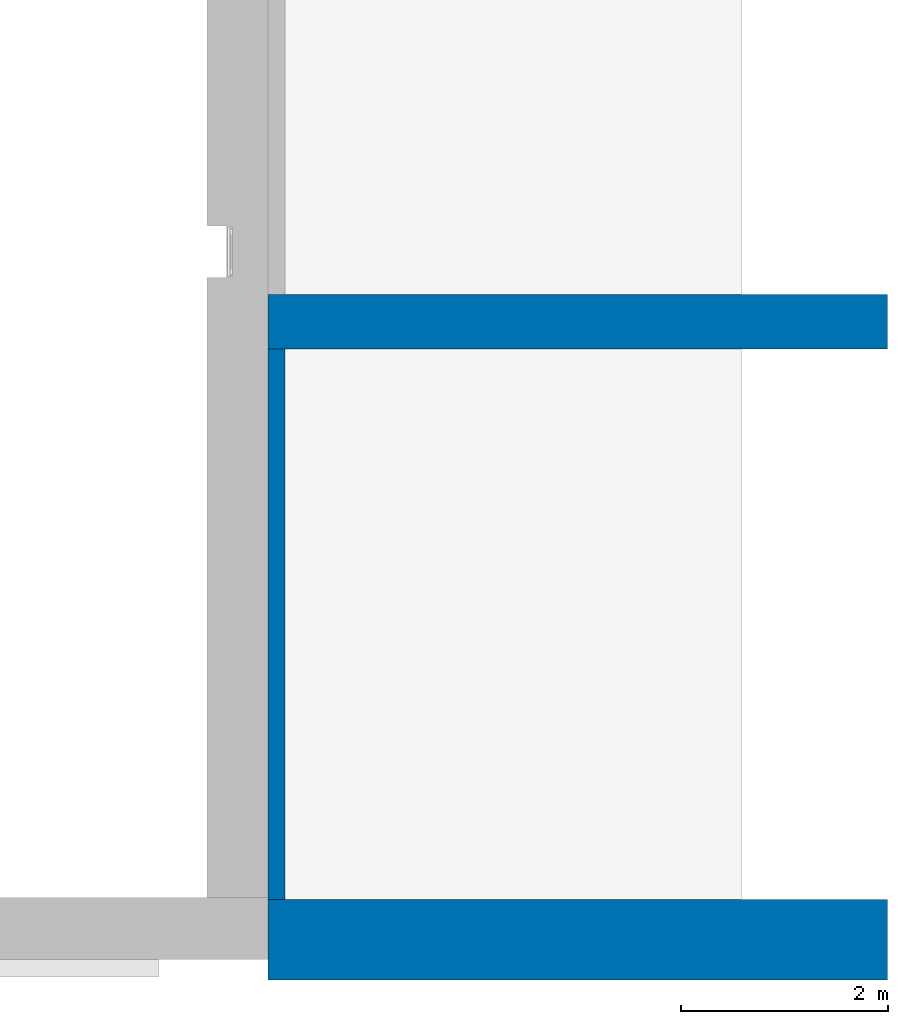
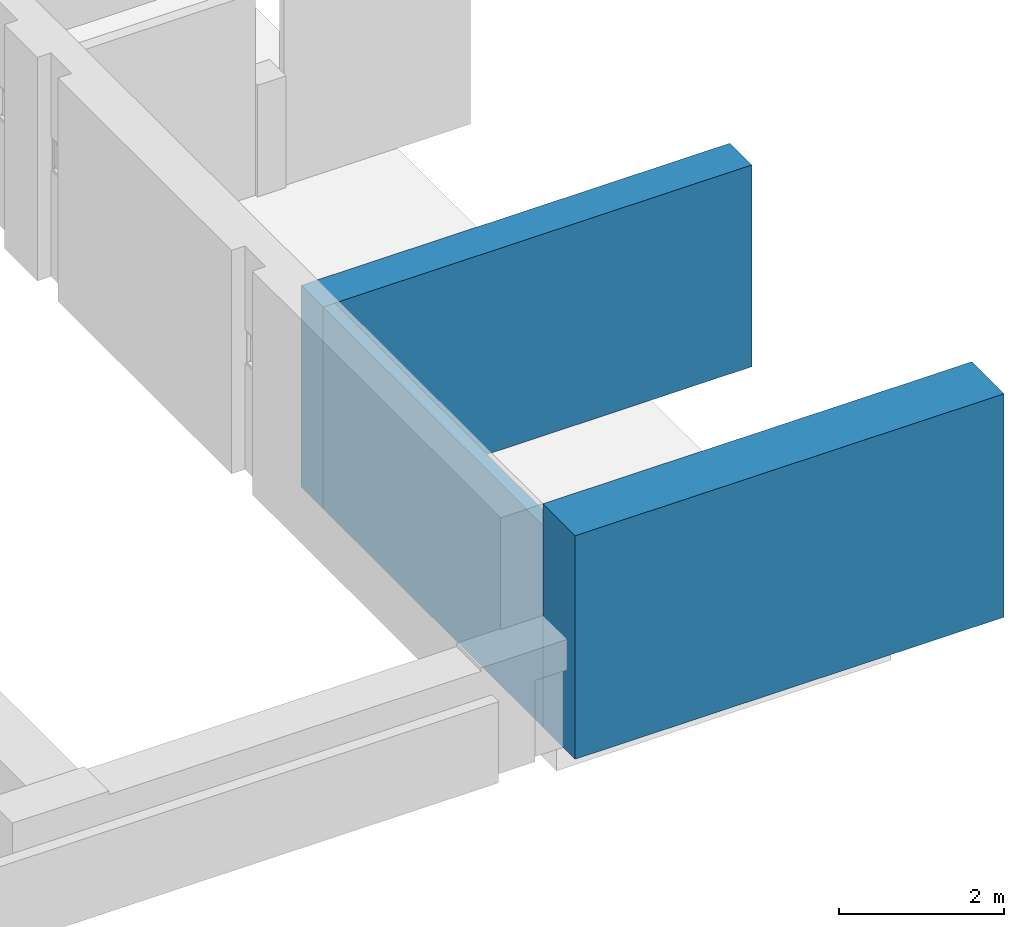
# One storey, part 2 of 11: 3 walls, 18 openings.
"""IFC2X3 building model written with IfcOpenShell, lengths in millimetres."""

import ifcopenshell
import ifcopenshell.guid

model = None  # the IFC model being written
_history = None  # IfcOwnerHistory: only IFC2X3 demands one
_inside = {}  # id of a spatial element -> (the spatial element, [elements in it])
_under = {}  # id of a project, library or spatial element -> (it, [spatial elements below it])
_declared = {}  # id of a project -> (the project, [libraries it declares])
_typed = {}  # id of a type object -> (the type object, [elements of that type])
_made_of = {}  # id of a material, layer set ... -> (it, [elements and type objects made of it])


def new_model(schema):
    """Start an empty IFC model of exactly this schema.

    Asked for "IFC4X3", IfcOpenShell would pick the latest addendum, in which some entities
    have other attributes; the version numbers below select the first issue.
    IFC2X3 requires an IfcOwnerHistory on every rooted entity: one is made here for all.
    """
    global model, _history
    if schema == "IFC4X3":
        model = ifcopenshell.file(schema_version=(4, 3, 0, 0))
    else:
        model = ifcopenshell.file(schema=schema)
    _inside.clear()
    _under.clear()
    _declared.clear()
    _typed.clear()
    _made_of.clear()
    _history = None
    if model.schema == "IFC2X3":
        org = make("IfcOrganization", Name="unknown")
        user = make(
            "IfcPersonAndOrganization",
            ThePerson=make("IfcPerson", FamilyName="unknown"),
            TheOrganization=org,
        )
        app = make(
            "IfcApplication",
            ApplicationDeveloper=org,
            Version="unknown",
            ApplicationFullName="unknown",
            ApplicationIdentifier="unknown",
        )
        _history = make(
            "IfcOwnerHistory",
            OwningUser=user,
            OwningApplication=app,
            ChangeAction="ADDED",
            CreationDate=0,
        )
    return model


def make(cls, **values):
    """One entity of the class cls with the attributes given. An attribute that is None is left unset."""
    return model.create_entity(
        cls, **{name: value for name, value in values.items() if value is not None}
    )


def entity(cls, *values):
    """Any entity or typed value of the class cls, its attributes in the order of the schema. None: left unset."""
    e = model.create_entity(cls)
    for i, value in enumerate(values):
        if value is not None:
            e[i] = value
    return e


def rooted(cls, **values):
    """An entity with a GlobalId (a new one), such as an element, a storey or a relation."""
    return make(cls, GlobalId=ifcopenshell.guid.new(), OwnerHistory=_history, **values)


def si_unit(unit_type, name, prefix=None):
    """IfcSIUnit, for example si_unit("LENGTHUNIT", "METRE", prefix="MILLI")."""
    return make("IfcSIUnit", UnitType=unit_type, Prefix=prefix, Name=name)


def converted_unit(unit_type, name, factor, base, dimensions=None, offset=None):
    """IfcConversionBasedUnit, such as the inch: factor (a typed value) times the base unit."""
    return make(
        "IfcConversionBasedUnit"
        if offset is None
        else "IfcConversionBasedUnitWithOffset",
        ConversionOffset=offset,
        Dimensions=None
        if dimensions is None
        else entity("IfcDimensionalExponents", *dimensions),
        UnitType=unit_type,
        Name=name,
        ConversionFactor=make(
            "IfcMeasureWithUnit", ValueComponent=factor, UnitComponent=base
        ),
    )


def derived_unit(unit_type, elements):
    """IfcDerivedUnit: a product of units, each with its exponent."""
    return make(
        "IfcDerivedUnit",
        Elements=[
            make("IfcDerivedUnitElement", Unit=unit, Exponent=power)
            for unit, power in elements
        ],
        UnitType=unit_type,
    )


def assignment(units):
    """IfcUnitAssignment: the units of a project."""
    return None if units is None else make("IfcUnitAssignment", Units=units)


def point(xyz):
    """IfcCartesianPoint."""
    return None if xyz is None else make("IfcCartesianPoint", Coordinates=xyz)


def direction(xyz):
    """IfcDirection."""
    return None if xyz is None else make("IfcDirection", DirectionRatios=xyz)


def frame(location, z_axis=None, x_axis=None):
    """IfcAxis2Placement3D, a coordinate frame: its origin and axes. An axis left out is left unset."""
    return make(
        "IfcAxis2Placement3D",
        Location=point(location),
        Axis=direction(z_axis),
        RefDirection=direction(x_axis),
    )


def frame_2d(location, x_axis=None):
    """IfcAxis2Placement2D, a coordinate frame in the plane: its origin and x axis."""
    return make(
        "IfcAxis2Placement2D", Location=point(location), RefDirection=direction(x_axis)
    )


def origin():
    """The frame at (0, 0, 0) with its axes left unset."""
    return frame((0.0, 0.0, 0.0))


def origin_2d_with_axis():
    """The frame at (0, 0) in the plane with the x axis (1, 0) written out."""
    return frame_2d((0.0, 0.0), x_axis=(1.0, 0.0))


def place(relative_to, where):
    """IfcLocalPlacement: puts the frame where relative to a parent placement (None: the world)."""
    return make(
        "IfcLocalPlacement", PlacementRelTo=relative_to, RelativePlacement=where
    )


def context(
    kind, dimensions, precision=None, world=None, true_north=None, identifier=None
):
    """IfcGeometricRepresentationContext, for example the 3D "Model" context."""
    return make(
        "IfcGeometricRepresentationContext",
        ContextIdentifier=identifier,
        ContextType=kind,
        CoordinateSpaceDimension=dimensions,
        Precision=precision,
        WorldCoordinateSystem=world,
        TrueNorth=true_north,
    )


def subcontext(parent, identifier, kind, view, scale=None):
    """IfcGeometricRepresentationSubContext, for example "Body" below "Model"."""
    return make(
        "IfcGeometricRepresentationSubContext",
        ContextIdentifier=identifier,
        ContextType=kind,
        ParentContext=parent,
        TargetScale=scale,
        TargetView=view,
    )


def project(units=None, contexts=None):
    """IfcProject with its units and contexts."""
    return rooted(
        "IfcProject",
        Name="project",
        RepresentationContexts=contexts,
        UnitsInContext=assignment(units),
    )


def spatial(cls, under=None, at=None, **own):
    """A site, building, storey or space (cls), placed at a placement, below another one or the project."""
    s = rooted(cls, ObjectPlacement=at, **own)
    if under is not None:
        _under.setdefault(under.id(), (under, []))[1].append(s)
    return s


def polyline(points):
    """IfcPolyline through the points."""
    return make("IfcPolyline", Points=[point(p) for p in points])


def circle_curve(where, radius):
    """IfcCircle in the frame where."""
    return make("IfcCircle", Position=where, Radius=radius)


def parameter(value):
    """IfcParameterValue: where a trimmed curve begins or ends, as a parameter of its basis curve."""
    return model.create_entity("IfcParameterValue", value)


def trimmed(basis, trim1, trim2, sense, master):
    """IfcTrimmedCurve: the piece of a basis curve between two trims."""
    return make(
        "IfcTrimmedCurve",
        BasisCurve=basis,
        Trim1=trim1,
        Trim2=trim2,
        SenseAgreement=sense,
        MasterRepresentation=master,
    )


def segment(curve, same_sense, transition):
    """IfcCompositeCurveSegment."""
    return make(
        "IfcCompositeCurveSegment",
        Transition=transition,
        SameSense=same_sense,
        ParentCurve=curve,
    )


def composite_curve(segments, self_intersect=None):
    """IfcCompositeCurve: segments joined end to end."""
    return make("IfcCompositeCurve", Segments=segments, SelfIntersect=self_intersect)


def profile(cls, at=None, kind="AREA", **sizes):
    """A parametric profile (cls). Its sizes go by their IFC names, for example OverallWidth=200.0."""
    return make(cls, ProfileType=kind, Position=at, **sizes)


def rectangle(**sizes):
    """IfcRectangleProfileDef."""
    return profile("IfcRectangleProfileDef", **sizes)


def outline(outer, holes=None, kind="AREA"):
    """IfcArbitraryClosedProfileDef: a profile drawn as a closed curve; with holes, ...WithVoids."""
    if holes is None:
        return make("IfcArbitraryClosedProfileDef", ProfileType=kind, OuterCurve=outer)
    return make(
        "IfcArbitraryProfileDefWithVoids",
        ProfileType=kind,
        OuterCurve=outer,
        InnerCurves=holes,
    )


def extrude(swept, where, along, depth):
    """IfcExtrudedAreaSolid: the profile swept, set in the frame where, extruded along a direction by depth."""
    return make(
        "IfcExtrudedAreaSolid",
        SweptArea=swept,
        Position=where,
        ExtrudedDirection=direction(along),
        Depth=depth,
    )


def clip(a, b, op="DIFFERENCE"):
    """IfcBooleanClippingResult: the solid a cut by the half space b."""
    return make(
        "IfcBooleanClippingResult", Operator=op, FirstOperand=a, SecondOperand=b
    )


def bounded_halfspace(plane, agree, where, boundary):
    """IfcPolygonalBoundedHalfSpace: a half space limited to a polygon's prism."""
    return make(
        "IfcPolygonalBoundedHalfSpace",
        BaseSurface=make("IfcPlane", Position=plane),
        AgreementFlag=agree,
        Position=where,
        PolygonalBoundary=boundary,
    )


def faces_of(points, faces, orient=None, outer=None):
    """IfcFace entities. A face is a list of loops; a loop is a list of indices into points, from 0.

    orient and outer hold one flag for each loop. By default every Orientation is true, the
    first loop of a face is its IfcFaceOuterBound and the others are IfcFaceBound.
    """
    made = []
    for i, loops in enumerate(faces):
        bounds = []
        for j, loop in enumerate(loops):
            is_outer = j == 0 if outer is None else outer[i][j]
            bounds.append(
                make(
                    "IfcFaceOuterBound" if is_outer else "IfcFaceBound",
                    Bound=make("IfcPolyLoop", Polygon=[points[k] for k in loop]),
                    Orientation=True if orient is None else orient[i][j],
                )
            )
        made.append(make("IfcFace", Bounds=bounds))
    return made


def faceted_brep(points, faces, orient=None, outer=None, voids=None):
    """IfcFacetedBrep: a solid bounded by flat faces; with voids (closed shells), ...WithVoids."""
    shared = [point(p) for p in points]
    hull = make("IfcClosedShell", CfsFaces=faces_of(shared, faces, orient, outer))
    if voids is None:
        return make("IfcFacetedBrep", Outer=hull)
    return make(
        "IfcFacetedBrepWithVoids",
        Outer=hull,
        Voids=[
            make(cls, CfsFaces=faces_of(shared, fs, o, b)) for cls, fs, o, b in voids
        ],
    )


def shape(context_of_items, identifier, shape_type, items):
    """IfcShapeRepresentation: the items that make up one representation, for example the "Body"."""
    return make(
        "IfcShapeRepresentation",
        ContextOfItems=context_of_items,
        RepresentationIdentifier=identifier,
        RepresentationType=shape_type,
        Items=items,
    )


def material(Name=None, Category=None):
    """IfcMaterial."""
    return make("IfcMaterial", Name=Name, Category=Category)


def layer(
    of_material, thickness, ventilated=None, Name=None, Category=None, Priority=None
):
    """IfcMaterialLayer: one layer of a wall or slab, of a material (None: an air gap)."""
    return make(
        "IfcMaterialLayer",
        Material=of_material,
        LayerThickness=thickness,
        IsVentilated=ventilated,
        Name=Name,
        Category=Category,
        Priority=Priority,
    )


def layer_set(layers, Name=None):
    """IfcMaterialLayerSet."""
    return make("IfcMaterialLayerSet", MaterialLayers=layers, LayerSetName=Name)


def layer_usage(for_layer_set, set_direction, sense, offset, extent=None):
    """IfcMaterialLayerSetUsage: how a layer set lies in its element."""
    return make(
        "IfcMaterialLayerSetUsage",
        ForLayerSet=for_layer_set,
        LayerSetDirection=set_direction,
        DirectionSense=sense,
        OffsetFromReferenceLine=offset,
        ReferenceExtent=extent,
    )


def made_of(thing, what):
    """Note that an element or type object is made of a material, layer set ...; save() writes the relation."""
    if what is not None:
        _made_of.setdefault(what.id(), (what, []))[1].append(thing)
    return thing


def type_object(cls, material=None, **own):
    """A type object (cls), such as IfcWallType, which elements share."""
    return made_of(rooted(cls, **own), material)


def element(
    cls,
    number,
    at=None,
    inside=None,
    cuts=None,
    type_object=None,
    material=None,
    context=None,
    identifier="Body",
    shape_type=None,
    held_by="IfcProductDefinitionShape",
    body=None,
    shapes=None,
    **own,
):
    """One element of the class cls, such as IfcWall. Its Tag is "e" and its number.

    at: its placement. inside: the storey or other place that contains it. cuts: it is an
    opening in that element (IfcRelVoidsElement). A single representation is given by context,
    identifier, shape_type and body (its items); several are given by shapes. held_by: the class
    of the entity that holds the representations. save() writes the other relations.
    """
    e = rooted(cls, Tag="e%d" % number, ObjectPlacement=at, **own)
    if body is not None:
        shapes = [shape(context, identifier, shape_type, body)]
    if shapes is not None:
        e.Representation = make(held_by, Representations=shapes)
    if inside is not None:
        _inside.setdefault(inside.id(), (inside, []))[1].append(e)
    if cuts is not None:
        rooted(
            "IfcRelVoidsElement", RelatingBuildingElement=cuts, RelatedOpeningElement=e
        )
    if type_object is not None:
        _typed.setdefault(type_object.id(), (type_object, []))[1].append(e)
    return made_of(e, material)


def aggregate(whole, parts):
    """IfcRelAggregates: a whole, such as a stair, and the parts it consists of."""
    return rooted("IfcRelAggregates", RelatingObject=whole, RelatedObjects=parts)


def save(model, path):
    """Write the relations noted so far, then the file.

    IfcRelAggregates (storeys below a building ...), IfcRelContainedInSpatialStructure (elements
    in a storey), IfcRelDefinesByType, IfcRelAssociatesMaterial and IfcRelDeclares: one each for
    every whole, place, type object, material and project.
    """
    for whole, parts in _under.values():
        aggregate(whole, parts)
    for where, things in _inside.values():
        rooted(
            "IfcRelContainedInSpatialStructure",
            RelatedElements=things,
            RelatingStructure=where,
        )
    for kind, things in _typed.values():
        rooted("IfcRelDefinesByType", RelatedObjects=things, RelatingType=kind)
    for what, things in _made_of.values():
        rooted("IfcRelAssociatesMaterial", RelatedObjects=things, RelatingMaterial=what)
    for by, libraries in _declared.values():
        rooted("IfcRelDeclares", RelatingContext=by, RelatedDefinitions=libraries)
    model.write(path)


model = new_model("IFC2X3")

# Units and contexts
model_context = context("Model", 3, precision=0.01, world=origin(), true_north=direction((6.123031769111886e-17, 1.0)))
body_context = subcontext(model_context, "Body", "Model", "MODEL_VIEW")
ifc_project = project(units=[si_unit("LENGTHUNIT", "METRE", prefix="MILLI"), si_unit("AREAUNIT", "SQUARE_METRE"), si_unit("VOLUMEUNIT", "CUBIC_METRE"), converted_unit("PLANEANGLEUNIT", "DEGREE", entity("IfcPlaneAngleMeasure", 0.017453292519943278), si_unit("PLANEANGLEUNIT", "RADIAN"), dimensions=[0, 0, 0, 0, 0, 0, 0]), si_unit("MASSUNIT", "GRAM", prefix="KILO"), derived_unit("MASSDENSITYUNIT", [(si_unit("MASSUNIT", "GRAM", prefix="KILO"), 1), (si_unit("LENGTHUNIT", "METRE"), -3)]), derived_unit("IONCONCENTRATIONUNIT", [(si_unit("MASSUNIT", "GRAM", prefix="KILO"), 1), (si_unit("LENGTHUNIT", "METRE"), -3)]), derived_unit("MOMENTOFINERTIAUNIT", [(si_unit("LENGTHUNIT", "METRE"), 4)]), si_unit("TIMEUNIT", "SECOND"), si_unit("FREQUENCYUNIT", "HERTZ"), si_unit("THERMODYNAMICTEMPERATUREUNIT", "DEGREE_CELSIUS"), derived_unit("THERMALTRANSMITTANCEUNIT", [(si_unit("MASSUNIT", "GRAM", prefix="KILO"), 1), (si_unit("THERMODYNAMICTEMPERATUREUNIT", "KELVIN"), -1), (si_unit("TIMEUNIT", "SECOND"), -3)]), derived_unit("THERMALCONDUCTANCEUNIT", [(si_unit("MASSUNIT", "GRAM", prefix="KILO"), 1), (si_unit("THERMODYNAMICTEMPERATUREUNIT", "KELVIN"), -1), (si_unit("TIMEUNIT", "SECOND"), -3), (si_unit("LENGTHUNIT", "METRE"), 1)]), derived_unit("VOLUMETRICFLOWRATEUNIT", [(si_unit("LENGTHUNIT", "METRE", prefix="DECI"), 3), (si_unit("TIMEUNIT", "SECOND"), -1)]), derived_unit("MASSFLOWRATEUNIT", [(si_unit("MASSUNIT", "GRAM", prefix="KILO"), 1), (si_unit("TIMEUNIT", "SECOND"), -1)]), derived_unit("ROTATIONALFREQUENCYUNIT", [(si_unit("TIMEUNIT", "SECOND"), -1)]), si_unit("ELECTRICCURRENTUNIT", "AMPERE"), si_unit("ELECTRICVOLTAGEUNIT", "VOLT"), si_unit("POWERUNIT", "WATT"), si_unit("FORCEUNIT", "NEWTON", prefix="KILO"), si_unit("ILLUMINANCEUNIT", "LUX"), si_unit("LUMINOUSFLUXUNIT", "LUMEN"), si_unit("LUMINOUSINTENSITYUNIT", "CANDELA"), si_unit("ENERGYUNIT", "JOULE"), derived_unit("USERDEFINED", [(si_unit("MASSUNIT", "GRAM", prefix="KILO"), -1), (si_unit("LENGTHUNIT", "METRE"), -2), (si_unit("TIMEUNIT", "SECOND"), 3), (si_unit("LUMINOUSFLUXUNIT", "LUMEN"), 1)]), derived_unit("USERDEFINED", [(si_unit("MASSUNIT", "GRAM", prefix="KILO"), 1), (si_unit("TIMEUNIT", "SECOND"), -3), (si_unit("LENGTHUNIT", "METRE"), 3), (si_unit("ELECTRICCURRENTUNIT", "AMPERE"), -2)]), derived_unit("SOUNDPOWERUNIT", [(si_unit("MASSUNIT", "GRAM", prefix="KILO"), 1), (si_unit("TIMEUNIT", "SECOND"), -3), (si_unit("LENGTHUNIT", "METRE"), 2)]), derived_unit("SOUNDPRESSUREUNIT", [(si_unit("MASSUNIT", "GRAM", prefix="KILO"), 1), (si_unit("LENGTHUNIT", "METRE"), -1), (si_unit("TIMEUNIT", "SECOND"), -2)]), derived_unit("LINEARVELOCITYUNIT", [(si_unit("LENGTHUNIT", "METRE"), 1), (si_unit("TIMEUNIT", "SECOND"), -1)]), si_unit("PRESSUREUNIT", "PASCAL"), derived_unit("USERDEFINED", [(si_unit("MASSUNIT", "GRAM", prefix="KILO"), 1), (si_unit("LENGTHUNIT", "METRE"), -2), (si_unit("TIMEUNIT", "SECOND"), -2)]), derived_unit("LINEARFORCEUNIT", [(si_unit("MASSUNIT", "GRAM", prefix="KILO"), 1), (si_unit("TIMEUNIT", "SECOND"), -2)]), derived_unit("PLANARFORCEUNIT", [(si_unit("MASSUNIT", "GRAM", prefix="KILO"), 1), (si_unit("LENGTHUNIT", "METRE"), -1), (si_unit("TIMEUNIT", "SECOND"), -2)]), derived_unit("SPECIFICHEATCAPACITYUNIT", [(si_unit("THERMODYNAMICTEMPERATUREUNIT", "KELVIN"), -1), (si_unit("LENGTHUNIT", "METRE"), 2), (si_unit("TIMEUNIT", "SECOND"), -2)]), derived_unit("HEATFLUXDENSITYUNIT", [(si_unit("MASSUNIT", "GRAM", prefix="KILO"), 1), (si_unit("TIMEUNIT", "SECOND"), -3)]), derived_unit("HEATINGVALUEUNIT", [(si_unit("LENGTHUNIT", "METRE"), 2), (si_unit("TIMEUNIT", "SECOND"), -2)]), derived_unit("VAPORPERMEABILITYUNIT", [(si_unit("LENGTHUNIT", "METRE"), -1), (si_unit("TIMEUNIT", "SECOND"), 1)]), derived_unit("DYNAMICVISCOSITYUNIT", [(si_unit("MASSUNIT", "GRAM", prefix="KILO"), 1), (si_unit("TIMEUNIT", "SECOND"), -1), (si_unit("LENGTHUNIT", "METRE"), -1)]), derived_unit("THERMALEXPANSIONCOEFFICIENTUNIT", [(si_unit("THERMODYNAMICTEMPERATUREUNIT", "KELVIN"), -1)]), derived_unit("MODULUSOFELASTICITYUNIT", [(si_unit("MASSUNIT", "GRAM", prefix="KILO"), 1), (si_unit("LENGTHUNIT", "METRE"), -1), (si_unit("TIMEUNIT", "SECOND"), -2)]), derived_unit("ISOTHERMALMOISTURECAPACITYUNIT", [(si_unit("MASSUNIT", "GRAM", prefix="KILO"), -1), (si_unit("LENGTHUNIT", "METRE"), 3)]), derived_unit("MOISTUREDIFFUSIVITYUNIT", [(si_unit("TIMEUNIT", "SECOND"), -1), (si_unit("LENGTHUNIT", "METRE"), 2)]), derived_unit("MASSPERLENGTHUNIT", [(si_unit("MASSUNIT", "GRAM", prefix="KILO"), 1), (si_unit("LENGTHUNIT", "METRE"), -1)]), derived_unit("THERMALRESISTANCEUNIT", [(si_unit("MASSUNIT", "GRAM", prefix="KILO"), -1), (si_unit("TIMEUNIT", "SECOND"), 3), (si_unit("THERMODYNAMICTEMPERATUREUNIT", "KELVIN"), 1)]), derived_unit("ACCELERATIONUNIT", [(si_unit("LENGTHUNIT", "METRE"), 1), (si_unit("TIMEUNIT", "SECOND"), -2)]), derived_unit("ANGULARVELOCITYUNIT", [(si_unit("TIMEUNIT", "SECOND"), -1), (si_unit("PLANEANGLEUNIT", "RADIAN"), 1)]), derived_unit("LINEARSTIFFNESSUNIT", [(si_unit("MASSUNIT", "GRAM", prefix="KILO"), 1), (si_unit("TIMEUNIT", "SECOND"), -2)]), derived_unit("WARPINGCONSTANTUNIT", [(si_unit("LENGTHUNIT", "METRE"), 6)]), derived_unit("LINEARMOMENTUNIT", [(si_unit("MASSUNIT", "GRAM", prefix="KILO"), 1), (si_unit("LENGTHUNIT", "METRE"), 1), (si_unit("TIMEUNIT", "SECOND"), -2)]), derived_unit("TORQUEUNIT", [(si_unit("MASSUNIT", "GRAM", prefix="KILO"), 1), (si_unit("LENGTHUNIT", "METRE"), 2), (si_unit("TIMEUNIT", "SECOND"), -2)])], contexts=[model_context])

# Site, building, storey
site_placement = place(None, origin())
site = spatial("IfcSite", under=ifc_project, at=site_placement, Name="Default", CompositionType="ELEMENT")
building_placement = place(site_placement, origin())
building = spatial("IfcBuilding", under=site, at=building_placement, Name="Eesti Rahvusraamatukogu hoone renoveerimise projekteerimistööd", CompositionType="ELEMENT")
storey_placement = place(building_placement, frame((0.0, 0.0, -1650.0)))
storey = spatial("IfcBuildingStorey", under=building, at=storey_placement, Name="-1. korrus", CompositionType="ELEMENT", Elevation=-1650.0000000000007)

# Wall, openings
ifc_material_1 = material(Name="ol. olev materjal")
ifc_layer_1 = layer(ifc_material_1, 780.0)
ifc_layer_set_1 = layer_set([ifc_layer_1], Name="Basic Wall:ol. olev - 780mm")
ifc_layer_usage_1 = layer_usage(ifc_layer_set_1, "AXIS2", "POSITIVE", -390.0)
wall_type_1 = type_object("IfcWallType", Name="Basic Wall:ol. olev - 780mm", PredefinedType="STANDARD", material=ifc_layer_set_1)
wall_1_placement = place(storey_placement, frame((-36190.0, 390.0, 0.0)))
wall_1 = element("IfcWallStandardCase", 1, at=wall_1_placement, inside=storey, type_object=wall_type_1, material=ifc_layer_usage_1, Name="Basic Wall:ol. olev - 780mm", ObjectType="Basic Wall:ol. olev - 780mm", context=body_context, shape_type="SweptSolid", body=[
    extrude(rectangle(XDim=5990.000000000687, YDim=780.0, at=frame_2d((2995.0000000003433, 0.0), x_axis=(-1.0, 0.0))), origin(), (0.0, 0.0, 1.0), 3300.0),
])
opening_1_placement = place(wall_1_placement, frame((36190.0, -390.0, 1650.0)))
element("IfcOpeningElement", 2, at=opening_1_placement, cuts=wall_1, Name="Basic Wall:ol. olev - 780mm", ObjectType="Opening", context=body_context, shape_type="Brep", body=[
    faceted_brep([(-30000.0, 0.0, 0.0), (-30000.0, 0.0, 1660.0), (-30000.0, -442.8568682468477, 1885.1089561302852), (-30000.0, -904.3315182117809, 2069.0583929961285), (-30000.0, -1263.700884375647, 2166.8178757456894), (-30000.0, -1623.070250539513, 2264.577358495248), (-30000.0, -2114.136035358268, 2339.748116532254), (-30000.0, -2610.0, 2370.0), (-30000.0, -3105.863964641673, 2339.748116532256), (-30000.0, -3596.9297494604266, 2264.5773584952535), (-30000.0, -3956.299115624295, 2166.8178757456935), (-30000.0, -4315.668481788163, 2069.0583929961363), (-30000.0, -4777.143131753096, 1885.108956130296), (-30000.0, -5220.0, 1660.0), (-30000.0, -5220.0, 0.0), (-30780.0, -5220.0, 0.0), (-30780.0, -5220.0, 1660.0), (-30780.0, -4777.143131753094, 1885.108956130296), (-30780.0, -4315.668481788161, 2069.0583929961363), (-30780.0, -3956.2991156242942, 2166.817875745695), (-30780.0, -3596.9297494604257, 2264.5773584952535), (-30780.0, -3105.8639646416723, 2339.748116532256), (-30780.0, -2610.0, 2370.0), (-30780.0, -2114.1360353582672, 2339.748116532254), (-30780.0, -1623.0702505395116, 2264.577358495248), (-30780.0, -1263.7008843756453, 2166.817875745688), (-30780.0, -904.3315182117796, 2069.0583929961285), (-30780.0, -442.8568682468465, 1885.1089561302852), (-30780.0, 0.0, 1660.0), (-30780.0, 0.0, 0.0)], [[[0, 1, 2, 3, 4, 5, 6, 7, 8, 9, 10, 11, 12, 13, 14]], [[15, 16, 17, 18, 19, 20, 21, 22, 23, 24, 25, 26, 27, 28, 29]], [[1, 0, 29, 28]], [[2, 1, 28, 27]], [[3, 2, 27, 26]], [[5, 4, 3, 26, 25, 24]], [[6, 5, 24, 23]], [[7, 6, 23, 22]], [[8, 7, 22, 21]], [[9, 8, 21, 20]], [[11, 10, 9, 20, 19, 18]], [[12, 11, 18, 17]], [[13, 12, 17, 16]], [[14, 13, 16, 15]], [[0, 14, 15, 29]]]),
])
opening_2_placement = place(wall_1_placement, frame((-6401.595272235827, -542.4000000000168, 1600.0)))
element("IfcOpeningElement", 3, at=opening_2_placement, cuts=wall_1, Name="Basic Wall:ol. olev - 780mm", ObjectType="Opening", context=body_context, shape_type="SweptSolid", body=[
    extrude(outline(composite_curve([segment(polyline([(-2600.0, -874.8853279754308), (2600.0, -874.8853279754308)]), True, "CONTINUOUS"), segment(polyline([(2600.0, -874.8853279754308), (2600.0, 874.8853279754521)]), True, "CONTINUOUS"), segment(trimmed(circle_curve(frame_2d((0.0, -3998.1658947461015), x_axis=(-1.0, 0.0)), 5523.28056677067), [parameter(241.91799981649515)], [parameter(298.08200018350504)], True, "PARAMETER"), True, "CONTINUOUS"), segment(polyline([(-2600.0, 874.8853279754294), (-2600.0, -874.8853279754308)]), True, "CONTINUOUS")], self_intersect=False)), frame((2601.595272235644, 0.0, 874.8853279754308), z_axis=(0.0, 1.0, 0.0), x_axis=(-1.0, 0.0, 0.0)), (0.0, 0.0, 1.0), 1084.8),
])
opening_3_placement = place(wall_1_placement, frame((-12390.0, -542.4000000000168, 1650.0)))
element("IfcOpeningElement", 4, at=opening_3_placement, cuts=wall_1, Name="Basic Wall:ol. olev - 780mm", ObjectType="Opening", context=body_context, shape_type="SweptSolid", body=[
    extrude(rectangle(XDim=2550.000000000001, YDim=5199.999999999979, at=frame_2d((0.0, 0.0), x_axis=(0.0, 1.0))), frame((2600.0, 0.0, 1275.0), z_axis=(0.0, 1.0, 0.0), x_axis=(-1.0, 0.0, 0.0)), (0.0, 0.0, 1.0), 1084.8),
])

# Wall
ifc_layer_2 = layer(ifc_material_1, 530.0)
ifc_layer_set_2 = layer_set([ifc_layer_2], Name="Basic Wall:ol. olev - 530mm")
ifc_layer_usage_2 = layer_usage(ifc_layer_set_2, "AXIS2", "NEGATIVE", 265.0)
wall_type_2 = type_object("IfcWallType", Name="Basic Wall:ol. olev - 530mm", PredefinedType="STANDARD", material=ifc_layer_set_2)
wall_2_placement = place(storey_placement, frame((-30200.0, 6365.0, 0.0), z_axis=(0.0, 0.0, 1.0), x_axis=(-1.0, 0.0, 0.0)))
element("IfcWallStandardCase", 5, at=wall_2_placement, inside=storey, type_object=wall_type_2, material=ifc_layer_usage_2, Name="Basic Wall:ol. olev - 530mm", ObjectType="Basic Wall:ol. olev - 530mm", context=body_context, shape_type="Clipping", body=[
    clip(clip(extrude(rectangle(XDim=5990.173422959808, YDim=530.0000000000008, at=frame_2d((2995.086711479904, -8.526512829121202e-14), x_axis=(-1.0, 0.0))), origin(), (0.0, 0.0, 1.0), 2985.0000000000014), bounded_halfspace(frame((5990.0, 265.0, 2980.0), z_axis=(1.0, 0.0, 0.0), x_axis=(0.0, 0.0, 1.0)), True, frame((5990.0, 265.0, 2980.0), z_axis=(1.0, 0.0, 0.0), x_axis=(0.0, 0.0, 1.0)), polyline([(0.0, 0.0), (5.0, 0.0), (5.0, 530.0), (0.0, 530.0), (0.0, 0.0)]))), bounded_halfspace(frame((5990.0, -265.0, 2980.0), z_axis=(0.0, 0.0, 1.0), x_axis=(0.0, 1.0, 0.0)), False, frame((5990.0, -265.0, 2980.0), z_axis=(0.0, 0.0, 1.0), x_axis=(0.0, 1.0, 0.0)), polyline([(0.0, 0.0), (530.0, 0.0), (530.0, 5590.0), (530.0, 5990.0), (0.0, 5990.0), (0.0, 5880.0), (0.0, 0.0)]))),
])

# Wall, openings
ifc_material_2 = material(Name="EST. Ehitusplaat. Kipsplaat")
ifc_layer_3 = layer(ifc_material_2, 14.0)
ifc_material_3 = material(Name="EST. Ehitusplaat. OSB")
ifc_layer_4 = layer(ifc_material_3, 15.0)
ifc_material_4 = material(Name="EST. Õhkvahe. Roov. Kipsplaadi alusroov. Vertikaalne")
ifc_layer_5 = layer(ifc_material_4, 66.0)
ifc_material_5 = material(Name="EST. Soojustus.PIR. Default")
ifc_layer_6 = layer(ifc_material_5, 70.0)
ifc_layer_set_3 = layer_set([ifc_layer_3, ifc_layer_4, ifc_layer_5, ifc_layer_6], Name="Basic Wall:VS-01 - 165 sooj. mitte läbiv")
ifc_layer_usage_3 = layer_usage(ifc_layer_set_3, "AXIS2", "NEGATIVE", 82.49999999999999)
wall_type_3 = type_object("IfcWallType", Name="Basic Wall:VS-01 - 165 sooj. mitte läbiv", PredefinedType="STANDARD", material=ifc_layer_set_3)
wall_3_placement = place(storey_placement, frame((-36107.67342295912, 6100.0, 0.0), z_axis=(0.0, 0.0, 1.0), x_axis=(0.0, -1.0, 0.0)))
wall_3 = element("IfcWallStandardCase", 6, at=wall_3_placement, inside=storey, type_object=wall_type_3, material=ifc_layer_usage_3, Name="Basic Wall:VS-01 - 165 sooj. mitte läbiv", ObjectType="Basic Wall:VS-01 - 165 sooj. mitte läbiv", context=body_context, shape_type="SweptSolid", body=[
    extrude(rectangle(XDim=5319.999999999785, YDim=165.00000000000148, at=frame_2d((2659.9999999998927, -1.5987211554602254e-12), x_axis=(-1.0, 0.0))), origin(), (0.0, 0.0, 1.0), 2980.0000000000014),
])
opening_4_placement = place(wall_3_placement, frame((-18708.404727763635, -234.90000000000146, 1420.0)))
element("IfcOpeningElement", 7, at=opening_4_placement, cuts=wall_3, Name="Basic Wall:VS-01 - 165 sooj. mitte läbiv", ObjectType="Opening", context=body_context, shape_type="SweptSolid", body=[
    extrude(outline(composite_curve([segment(polyline([(-530.3896667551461, -1100.0), (529.6103332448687, -1100.0)]), True, "CONTINUOUS"), segment(trimmed(circle_curve(frame_2d((-913.267637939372, 1.02280955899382), x_axis=(0.0, -1.0)), 1814.9788061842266), [parameter(52.653685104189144)], [parameter(127.26512850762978)], True, "PARAMETER"), True, "CONTINUOUS"), segment(polyline([(531.1690002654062, 1100.0), (-530.3896667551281, 1100.0)]), True, "CONTINUOUS"), segment(polyline([(-530.3896667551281, 1100.0), (-530.3896667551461, -1100.0)]), True, "CONTINUOUS")], self_intersect=False)), frame((-1101.595272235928, 0.0, 530.3896667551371), z_axis=(0.0, 1.0, 0.0), x_axis=(0.0, 0.0, 1.0)), (0.0, 0.0, 1.0), 469.8000000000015),
])
opening_5_placement = place(wall_3_placement, frame((-21697.039068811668, -234.90000000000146, 1420.0)))
element("IfcOpeningElement", 8, at=opening_5_placement, cuts=wall_3, Name="Basic Wall:VS-01 - 165 sooj. mitte läbiv", ObjectType="Opening", context=body_context, shape_type="SweptSolid", body=[
    extrude(outline(composite_curve([segment(polyline([(-530.3896667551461, -1100.0), (529.6103332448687, -1100.0)]), True, "CONTINUOUS"), segment(trimmed(circle_curve(frame_2d((-913.267637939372, 1.02280955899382), x_axis=(0.0, -1.0)), 1814.9788061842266), [parameter(52.653685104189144)], [parameter(127.26512850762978)], True, "PARAMETER"), True, "CONTINUOUS"), segment(polyline([(531.1690002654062, 1100.0), (-530.3896667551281, 1100.0)]), True, "CONTINUOUS"), segment(polyline([(-530.3896667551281, 1100.0), (-530.3896667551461, -1100.0)]), True, "CONTINUOUS")], self_intersect=False)), frame((-1101.595272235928, 0.0, 530.3896667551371), z_axis=(0.0, 1.0, 0.0), x_axis=(0.0, 0.0, 1.0)), (0.0, 0.0, 1.0), 469.8000000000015),
])
opening_6_placement = place(wall_3_placement, frame((6100.0, 36107.673422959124, 1565.0)))
element("IfcOpeningElement", 9, at=opening_6_placement, cuts=wall_3, Name="Basic Wall:VS-01 - 165 sooj. mitte läbiv", ObjectType="Opening", context=body_context, shape_type="SweptSolid", body=[
    extrude(rectangle(XDim=499.9999999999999, YDim=499.999999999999, at=frame_2d((-4.334310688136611e-12, 0.0), x_axis=(0.0, 1.0))), frame((-47740.0, -37714.17342295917, 250.0), z_axis=(0.0, 1.0, 0.0), x_axis=(-1.0, 0.0, 0.0)), (0.0, 0.0, 1.0), 3048.0),
])
opening_7_placement = place(wall_3_placement, frame((6100.0, 36107.673422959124, 1565.0)))
element("IfcOpeningElement", 10, at=opening_7_placement, cuts=wall_3, Name="Basic Wall:VS-01 - 165 sooj. mitte läbiv", ObjectType="Opening", context=body_context, shape_type="SweptSolid", body=[
    extrude(rectangle(XDim=499.9999999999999, YDim=499.999999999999, at=frame_2d((0.0, -4.334310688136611e-12), x_axis=(1.0, 0.0))), frame((-43040.0, -37714.17342295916, 250.0), z_axis=(0.0, 1.0, 0.0), x_axis=(0.0, 0.0, 1.0)), (0.0, 0.0, 1.0), 3048.0),
])
opening_8_placement = place(wall_3_placement, frame((6100.0, 36107.673422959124, 1565.0)))
element("IfcOpeningElement", 11, at=opening_8_placement, cuts=wall_3, Name="Basic Wall:VS-01 - 165 sooj. mitte läbiv", ObjectType="Opening", context=body_context, shape_type="SweptSolid", body=[
    extrude(rectangle(XDim=499.9999999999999, YDim=499.999999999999, at=frame_2d((-4.334310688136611e-12, 0.0), x_axis=(0.0, 1.0))), frame((-41740.0, -37714.17342295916, 250.0), z_axis=(0.0, 1.0, 0.0), x_axis=(-1.0, 0.0, 0.0)), (0.0, 0.0, 1.0), 3048.0),
])
opening_9_placement = place(wall_3_placement, frame((6100.0, 36107.673422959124, 1565.0)))
element("IfcOpeningElement", 12, at=opening_9_placement, cuts=wall_3, Name="Basic Wall:VS-01 - 165 sooj. mitte läbiv", ObjectType="Opening", context=body_context, shape_type="SweptSolid", body=[
    extrude(rectangle(XDim=499.9999999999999, YDim=499.999999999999, at=origin_2d_with_axis()), frame((-37040.0, -37714.17342295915, 250.0), z_axis=(0.0, 1.0, 0.0), x_axis=(0.0, 0.0, 1.0)), (0.0, 0.0, 1.0), 3048.0),
])
opening_10_placement = place(wall_3_placement, frame((6100.0, 36107.673422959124, 1565.0)))
element("IfcOpeningElement", 13, at=opening_10_placement, cuts=wall_3, Name="Basic Wall:VS-01 - 165 sooj. mitte läbiv", ObjectType="Opening", context=body_context, shape_type="SweptSolid", body=[
    extrude(rectangle(XDim=499.9999999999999, YDim=499.999999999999, at=frame_2d((0.0, 0.0), x_axis=(0.0, 1.0))), frame((-35740.0, -37714.17342295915, 250.0), z_axis=(0.0, 1.0, 0.0), x_axis=(-1.0, 0.0, 0.0)), (0.0, 0.0, 1.0), 3048.0),
])
opening_11_placement = place(wall_3_placement, frame((6100.0, 36107.673422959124, 1565.0)))
element("IfcOpeningElement", 14, at=opening_11_placement, cuts=wall_3, Name="Basic Wall:VS-01 - 165 sooj. mitte läbiv", ObjectType="Opening", context=body_context, shape_type="SweptSolid", body=[
    extrude(rectangle(XDim=499.9999999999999, YDim=499.999999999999, at=origin_2d_with_axis()), frame((-31040.0, -37714.17342295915, 250.0), z_axis=(0.0, 1.0, 0.0), x_axis=(0.0, 0.0, 1.0)), (0.0, 0.0, 1.0), 3048.0),
])
opening_12_placement = place(wall_3_placement, frame((6100.0, 36107.673422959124, 1565.0)))
element("IfcOpeningElement", 15, at=opening_12_placement, cuts=wall_3, Name="Basic Wall:VS-01 - 165 sooj. mitte läbiv", ObjectType="Opening", context=body_context, shape_type="SweptSolid", body=[
    extrude(rectangle(XDim=499.9999999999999, YDim=499.999999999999, at=origin_2d_with_axis()), frame((-19040.0, -37714.17342295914, 250.0), z_axis=(0.0, 1.0, 0.0), x_axis=(0.0, 0.0, 1.0)), (0.0, 0.0, 1.0), 3048.0),
])
opening_13_placement = place(wall_3_placement, frame((6100.0, 36107.673422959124, 1565.0)))
element("IfcOpeningElement", 16, at=opening_13_placement, cuts=wall_3, Name="Basic Wall:VS-01 - 165 sooj. mitte läbiv", ObjectType="Opening", context=body_context, shape_type="SweptSolid", body=[
    extrude(rectangle(XDim=499.9999999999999, YDim=500.00000000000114, at=frame_2d((-1.0800249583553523e-12, 0.0), x_axis=(0.0, 1.0))), frame((-17740.0, -37714.17342295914, 250.0), z_axis=(0.0, 1.0, 0.0), x_axis=(-1.0, 0.0, 0.0)), (0.0, 0.0, 1.0), 3048.0),
])
opening_14_placement = place(wall_3_placement, frame((6100.0, 36107.673422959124, 1565.0)))
element("IfcOpeningElement", 17, at=opening_14_placement, cuts=wall_3, Name="Basic Wall:VS-01 - 165 sooj. mitte läbiv", ObjectType="Opening", context=body_context, shape_type="SweptSolid", body=[
    extrude(rectangle(XDim=499.9999999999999, YDim=499.999999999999, at=origin_2d_with_axis()), frame((-13040.0, -37714.17342295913, 250.0), z_axis=(0.0, 1.0, 0.0), x_axis=(0.0, 0.0, 1.0)), (0.0, 0.0, 1.0), 3048.0),
])
opening_15_placement = place(wall_3_placement, frame((6100.0, 36107.673422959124, 1565.0)))
element("IfcOpeningElement", 18, at=opening_15_placement, cuts=wall_3, Name="Basic Wall:VS-01 - 165 sooj. mitte läbiv", ObjectType="Opening", context=body_context, shape_type="SweptSolid", body=[
    extrude(rectangle(XDim=499.9999999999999, YDim=500.00000000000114, at=frame_2d((1.0800249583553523e-12, 0.0), x_axis=(0.0, 1.0))), frame((-11740.0, -37714.17342295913, 250.0), z_axis=(0.0, 1.0, 0.0), x_axis=(-1.0, 0.0, 0.0)), (0.0, 0.0, 1.0), 3048.0),
])
opening_16_placement = place(wall_3_placement, frame((6100.0, 36107.673422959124, 1565.0)))
element("IfcOpeningElement", 19, at=opening_16_placement, cuts=wall_3, Name="Basic Wall:VS-01 - 165 sooj. mitte läbiv", ObjectType="Opening", context=body_context, shape_type="SweptSolid", body=[
    extrude(rectangle(XDim=499.9999999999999, YDim=500.00000000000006, at=frame_2d((0.0, 5.400124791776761e-13), x_axis=(1.0, 0.0))), frame((-7040.0, -37714.173422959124, 250.0), z_axis=(0.0, 1.0, 0.0), x_axis=(0.0, 0.0, 1.0)), (0.0, 0.0, 1.0), 3048.0),
])
opening_17_placement = place(wall_3_placement, frame((6100.0, 36107.673422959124, 1565.0)))
element("IfcOpeningElement", 20, at=opening_17_placement, cuts=wall_3, Name="Basic Wall:VS-01 - 165 sooj. mitte läbiv", ObjectType="Opening", context=body_context, shape_type="SweptSolid", body=[
    extrude(rectangle(XDim=499.9999999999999, YDim=499.999999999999, at=frame_2d((1.4210854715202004e-14, 0.0), x_axis=(1.0, 0.0))), frame((-23740.0, -37714.17342295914, 250.0), z_axis=(0.0, 1.0, 0.0), x_axis=(0.0, 0.0, 1.0)), (0.0, 0.0, 1.0), 3048.0),
])
opening_18_placement = place(wall_3_placement, frame((6100.0, 36107.673422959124, 1650.0)))
element("IfcOpeningElement", 21, at=opening_18_placement, cuts=wall_3, Name="Basic Wall:VS-01 - 165 sooj. mitte läbiv", ObjectType="Opening", context=body_context, shape_type="SweptSolid", body=[
    extrude(rectangle(XDim=3600.000000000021, YDim=499.999999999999, at=origin_2d_with_axis()), frame((-7040.0, -36790.0, 150.0), z_axis=(0.0, 1.0, 0.0), x_axis=(0.0, 0.0, -1.0)), (0.0, 0.0, 1.0), 199.99999999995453),
    extrude(rectangle(XDim=3600.000000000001, YDim=499.999999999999, at=frame_2d((0.0, -4.334310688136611e-12), x_axis=(1.0, 0.0))), frame((-47740.0, -36790.0, 150.0), z_axis=(0.0, 1.0, 0.0), x_axis=(0.0, 0.0, -1.0)), (0.0, 0.0, 1.0), 199.99999999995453),
    extrude(rectangle(XDim=3599.9999999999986, YDim=499.999999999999, at=frame_2d((0.0, -4.334310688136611e-12), x_axis=(1.0, 0.0))), frame((-43040.0, -36790.0, 150.0), z_axis=(0.0, 1.0, 0.0), x_axis=(0.0, 0.0, -1.0)), (0.0, 0.0, 1.0), 199.99999999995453),
    extrude(rectangle(XDim=3600.0000000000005, YDim=499.999999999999, at=frame_2d((2.2737367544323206e-13, -4.334310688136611e-12), x_axis=(1.0, 0.0))), frame((-41740.0, -36790.0, 150.0), z_axis=(0.0, 1.0, 0.0), x_axis=(0.0, 0.0, -1.0)), (0.0, 0.0, 1.0), 199.99999999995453),
    extrude(rectangle(XDim=3599.999999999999, YDim=499.999999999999, at=origin_2d_with_axis()), frame((-37040.0, -36790.0, 150.0), z_axis=(0.0, 1.0, 0.0), x_axis=(0.0, 0.0, -1.0)), (0.0, 0.0, 1.0), 199.99999999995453),
    extrude(rectangle(XDim=3599.999999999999, YDim=499.999999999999, at=origin_2d_with_axis()), frame((-35740.0, -36790.0, 150.0), z_axis=(0.0, 1.0, 0.0), x_axis=(0.0, 0.0, -1.0)), (0.0, 0.0, 1.0), 199.99999999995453),
    extrude(rectangle(XDim=3599.9999999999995, YDim=499.999999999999, at=frame_2d((-2.2737367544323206e-13, 0.0), x_axis=(1.0, 0.0))), frame((-31040.0, -36790.0, 150.0), z_axis=(0.0, 1.0, 0.0), x_axis=(0.0, 0.0, -1.0)), (0.0, 0.0, 1.0), 199.99999999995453),
    extrude(rectangle(XDim=3600.000000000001, YDim=499.999999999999, at=origin_2d_with_axis()), frame((-23740.0, -36790.0, 150.0), z_axis=(0.0, 1.0, 0.0), x_axis=(0.0, 0.0, -1.0)), (0.0, 0.0, 1.0), 199.99999999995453),
    extrude(rectangle(XDim=3600.0000000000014, YDim=500.0000000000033, at=frame_2d((-2.2737367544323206e-13, 2.1600499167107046e-12), x_axis=(1.0, 0.0))), frame((-19040.0, -36790.0, 150.0), z_axis=(0.0, 1.0, 0.0), x_axis=(0.0, 0.0, -1.0)), (0.0, 0.0, 1.0), 199.99999999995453),
    extrude(rectangle(XDim=3600.000000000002, YDim=499.999999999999, at=origin_2d_with_axis()), frame((-17740.0, -36790.0, 150.0), z_axis=(0.0, 1.0, 0.0), x_axis=(0.0, 0.0, -1.0)), (0.0, 0.0, 1.0), 199.99999999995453),
    extrude(rectangle(XDim=3600.0000000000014, YDim=500.0000000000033, at=origin_2d_with_axis()), frame((-13040.0, -36790.0, 150.0), z_axis=(0.0, 1.0, 0.0), x_axis=(0.0, 0.0, -1.0)), (0.0, 0.0, 1.0), 199.99999999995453),
    extrude(rectangle(XDim=3600.0000000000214, YDim=499.999999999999, at=origin_2d_with_axis()), frame((-11740.0, -36790.0, 150.0), z_axis=(0.0, 1.0, 0.0), x_axis=(0.0, 0.0, -1.0)), (0.0, 0.0, 1.0), 199.99999999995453),
])

save(model, "model.ifc")
